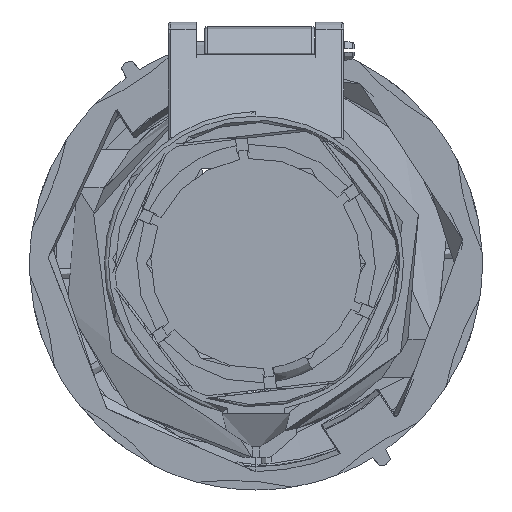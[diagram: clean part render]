
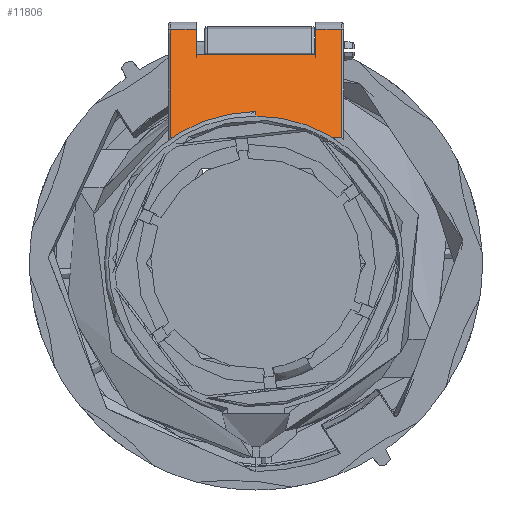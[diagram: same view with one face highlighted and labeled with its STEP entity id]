
A CAD part, front view. The second image highlights one B-rep face of the part: STEP entity #11806.
In plain terms, the highlighted planar face has unit normal (0, -0.678, 0.736).
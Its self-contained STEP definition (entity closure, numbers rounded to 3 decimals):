
#242 = CARTESIAN_POINT ( 'NONE',  ( -447.629, 21.332, 222.165 ) ) ;
#291 = VERTEX_POINT ( 'NONE', #16462 ) ;
#745 = CARTESIAN_POINT ( 'NONE',  ( -453.029, 21.332, 222.165 ) ) ;
#2889 = DIRECTION ( 'NONE',  ( -1., 0., 0. ) ) ;
#4264 = EDGE_CURVE ( 'NONE', #7583, #37938, #43266, .T. ) ;
#4367 = CARTESIAN_POINT ( 'NONE',  ( -453.029, 45.924, 244.82 ) ) ;
#4777 = CARTESIAN_POINT ( 'NONE',  ( -447.629, 45.924, 244.82 ) ) ;
#4982 = CARTESIAN_POINT ( 'NONE',  ( -422.529, 45.924, 244.82 ) ) ;
#5457 = VERTEX_POINT ( 'NONE', #19138 ) ;
#6354 = ORIENTED_EDGE ( 'NONE', *, *, #10441, .T. ) ;
#6722 = LINE ( 'NONE', #242, #19992 ) ;
#7583 = VERTEX_POINT ( 'NONE', #13964 ) ;
#9027 = EDGE_CURVE ( 'NONE', #40861, #20406, #6722, .T. ) ;
#9173 = DIRECTION ( 'NONE',  ( 0., 0.678, -0.735 ) ) ;
#10441 = EDGE_CURVE ( 'NONE', #40861, #33105, #33865, .T. ) ;
#10698 = CARTESIAN_POINT ( 'NONE',  ( -422.429, 40.123, 239.475 ) ) ;
#11033 = VERTEX_POINT ( 'NONE', #10698 ) ;
#11806 = ADVANCED_FACE ( 'NONE', ( #16119 ), #34718, .F. ) ;
#12653 = AXIS2_PLACEMENT_3D ( 'NONE', #745, #9173, #15882 ) ;
#12796 = CARTESIAN_POINT ( 'NONE',  ( -417.029, 21.078, 221.931 ) ) ;
#13569 = ORIENTED_EDGE ( 'NONE', *, *, #15436, .F. ) ;
#13733 = ORIENTED_EDGE ( 'NONE', *, *, #19927, .T. ) ;
#13964 = CARTESIAN_POINT ( 'NONE',  ( -453.029, 21.078, 221.931 ) ) ;
#14641 = DIRECTION ( 'NONE',  ( 0., -0.735, -0.678 ) ) ;
#14735 = DIRECTION ( 'NONE',  ( 1., 0., 0. ) ) ;
#15015 = CARTESIAN_POINT ( 'NONE',  ( -453.529, 45.924, 244.82 ) ) ;
#15436 = EDGE_CURVE ( 'NONE', #20406, #11033, #26387, .T. ) ;
#15882 = DIRECTION ( 'NONE',  ( -1., 0., 0. ) ) ;
#16119 = FACE_OUTER_BOUND ( 'NONE', #38086, .T. ) ;
#16462 = CARTESIAN_POINT ( 'NONE',  ( -422.429, 45.924, 244.82 ) ) ;
#16664 = DIRECTION ( 'NONE',  ( 0., -0.735, -0.678 ) ) ;
#16851 = VECTOR ( 'NONE', #2889, 1000. ) ;
#18418 = VECTOR ( 'NONE', #42930, 1000. ) ;
#19138 = CARTESIAN_POINT ( 'NONE',  ( -417.029, 45.924, 244.82 ) ) ;
#19927 = EDGE_CURVE ( 'NONE', #37938, #5457, #27610, .T. ) ;
#19992 = VECTOR ( 'NONE', #14641, 1000. ) ;
#20406 = VERTEX_POINT ( 'NONE', #32953 ) ;
#20689 = CARTESIAN_POINT ( 'NONE',  ( -453.029, 21.078, 221.931 ) ) ;
#21782 = EDGE_CURVE ( 'NONE', #33105, #7583, #38290, .T. ) ;
#23141 = CARTESIAN_POINT ( 'NONE',  ( -453.029, 40.123, 239.475 ) ) ;
#23273 = VECTOR ( 'NONE', #16664, 1000. ) ;
#24085 = LINE ( 'NONE', #39237, #23273 ) ;
#26387 = LINE ( 'NONE', #23141, #35272 ) ;
#27124 = ORIENTED_EDGE ( 'NONE', *, *, #21782, .T. ) ;
#27610 = LINE ( 'NONE', #31098, #28939 ) ;
#28939 = VECTOR ( 'NONE', #34578, 1000. ) ;
#29374 = EDGE_CURVE ( 'NONE', #5457, #291, #31028, .T. ) ;
#31028 = LINE ( 'NONE', #4982, #18418 ) ;
#31098 = CARTESIAN_POINT ( 'NONE',  ( -417.029, 45.924, 244.82 ) ) ;
#31384 = CARTESIAN_POINT ( 'NONE',  ( -428.252, 29.329, 229.531 ) ) ;
#31544 = ORIENTED_EDGE ( 'NONE', *, *, #32395, .T. ) ;
#31630 = CARTESIAN_POINT ( 'NONE',  ( -441.806, 29.329, 229.531 ) ) ;
#32395 = EDGE_CURVE ( 'NONE', #291, #11033, #24085, .T. ) ;
#32953 = CARTESIAN_POINT ( 'NONE',  ( -447.629, 40.123, 239.475 ) ) ;
#33105 = VERTEX_POINT ( 'NONE', #4367 ) ;
#33865 = LINE ( 'NONE', #15015, #16851 ) ;
#34578 = DIRECTION ( 'NONE',  ( 0., 0.735, 0.678 ) ) ;
#34718 = PLANE ( 'NONE',  #12653 ) ;
#35272 = VECTOR ( 'NONE', #14735, 1000. ) ;
#37299 = DIRECTION ( 'NONE',  ( 0., -0.735, -0.678 ) ) ;
#37938 = VERTEX_POINT ( 'NONE', #48586 ) ;
#38086 = EDGE_LOOP ( 'NONE', ( #27124, #47046, #13733, #41335, #31544, #13569, #42123, #6354 ) ) ;
#38290 = LINE ( 'NONE', #41033, #44869 ) ;
#39237 = CARTESIAN_POINT ( 'NONE',  ( -422.429, 21.332, 222.165 ) ) ;
#40861 = VERTEX_POINT ( 'NONE', #4777 ) ;
#41033 = CARTESIAN_POINT ( 'NONE',  ( -453.029, 21.332, 222.165 ) ) ;
#41335 = ORIENTED_EDGE ( 'NONE', *, *, #29374, .T. ) ;
#42123 = ORIENTED_EDGE ( 'NONE', *, *, #9027, .F. ) ;
#42930 = DIRECTION ( 'NONE',  ( -1., 0., 0. ) ) ;
#43266 =( BOUNDED_CURVE ( )  B_SPLINE_CURVE ( 3, ( #20689, #31630, #31384, #12796 ),
 .UNSPECIFIED., .F., .T. ) 
 B_SPLINE_CURVE_WITH_KNOTS ( ( 4, 4 ),
 ( 2.546, 3.737 ),
 .UNSPECIFIED. ) 
 CURVE ( )  GEOMETRIC_REPRESENTATION_ITEM ( )  RATIONAL_B_SPLINE_CURVE ( ( 1., 0.885, 0.885, 1. ) ) 
 REPRESENTATION_ITEM ( '' )  );
#44869 = VECTOR ( 'NONE', #37299, 1000. ) ;
#47046 = ORIENTED_EDGE ( 'NONE', *, *, #4264, .T. ) ;
#48586 = CARTESIAN_POINT ( 'NONE',  ( -417.029, 21.078, 221.931 ) ) ;
